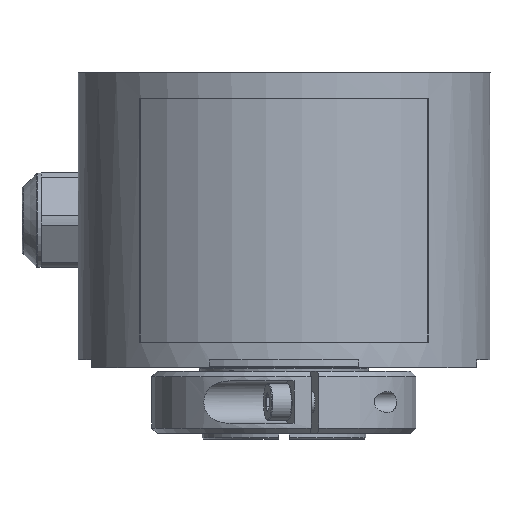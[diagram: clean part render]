
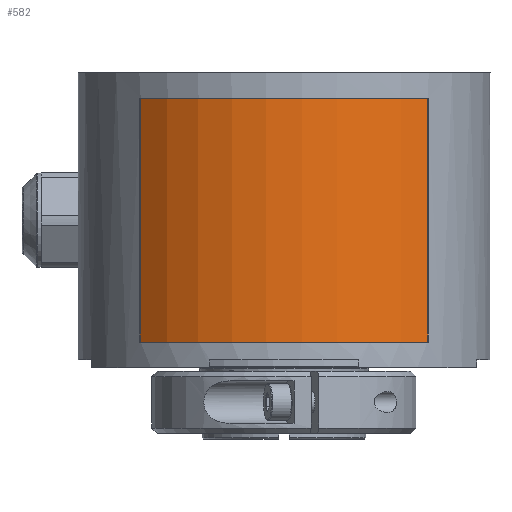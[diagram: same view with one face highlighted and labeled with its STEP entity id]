
A CAD part, front view. The second image highlights one B-rep face of the part: STEP entity #582.
In plain terms, the highlighted cylindrical face has radius 39.2 mm (diameter 78.4 mm), a partial arc.
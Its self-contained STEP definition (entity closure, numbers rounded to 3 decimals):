
#539 = VERTEX_POINT ( 'NONE', #3848 ) ;
#540 = ORIENTED_EDGE ( 'NONE', *, *, #544, .F. ) ;
#543 = EDGE_CURVE ( 'NONE', #585, #569, #3843, .T. ) ;
#544 = EDGE_CURVE ( 'NONE', #569, #567, #3850, .T. ) ;
#556 = EDGE_CURVE ( 'NONE', #539, #567, #3946, .T. ) ;
#558 = EDGE_LOOP ( 'NONE', ( #581, #589, #604, #540 ) ) ;
#567 = VERTEX_POINT ( 'NONE', #3972 ) ;
#569 = VERTEX_POINT ( 'NONE', #3922 ) ;
#575 = EDGE_CURVE ( 'NONE', #585, #539, #3971, .T. ) ;
#581 = ORIENTED_EDGE ( 'NONE', *, *, #543, .F. ) ;
#582 = ADVANCED_FACE ( 'NONE', ( #3927 ), #3745, .T. ) ;
#585 = VERTEX_POINT ( 'NONE', #3052 ) ;
#589 = ORIENTED_EDGE ( 'NONE', *, *, #575, .T. ) ;
#604 = ORIENTED_EDGE ( 'NONE', *, *, #556, .T. ) ;
#3052 = CARTESIAN_POINT ( 'NONE',  ( 26.154, -33.101, 42.312 ) ) ;
#3745 = CYLINDRICAL_SURFACE ( 'NONE', #3794, 39.2 ) ;
#3777 = DIRECTION ( 'NONE',  ( -1., 0., 0. ) ) ;
#3778 = DIRECTION ( 'NONE',  ( 0., 0., -1. ) ) ;
#3779 = CARTESIAN_POINT ( 'NONE',  ( -1.077, -4.903, 29.159 ) ) ;
#3794 = AXIS2_PLACEMENT_3D ( 'NONE', #3779, #3778, #3777 ) ;
#3816 = CARTESIAN_POINT ( 'NONE',  ( -1.077, -4.903, -3.688 ) ) ;
#3829 = DIRECTION ( 'NONE',  ( -1., 0., 0. ) ) ;
#3830 = DIRECTION ( 'NONE',  ( 0., 0., -1. ) ) ;
#3837 = DIRECTION ( 'NONE',  ( 0., 0., -1. ) ) ;
#3838 = VECTOR ( 'NONE', #3837, 1000. ) ;
#3842 = CARTESIAN_POINT ( 'NONE',  ( 26.154, -33.101, 42.312 ) ) ;
#3843 = LINE ( 'NONE', #3842, #3838 ) ;
#3848 = CARTESIAN_POINT ( 'NONE',  ( -28.308, -33.101, 42.312 ) ) ;
#3850 = CIRCLE ( 'NONE', #3859, 39.2 ) ;
#3859 = AXIS2_PLACEMENT_3D ( 'NONE', #3816, #3830, #3829 ) ;
#3922 = CARTESIAN_POINT ( 'NONE',  ( 26.154, -33.101, -3.688 ) ) ;
#3927 = FACE_OUTER_BOUND ( 'NONE', #558, .T. ) ;
#3941 = DIRECTION ( 'NONE',  ( 0., 0., -1. ) ) ;
#3942 = VECTOR ( 'NONE', #3941, 1000. ) ;
#3943 = CARTESIAN_POINT ( 'NONE',  ( -28.308, -33.101, 42.312 ) ) ;
#3946 = LINE ( 'NONE', #3943, #3942 ) ;
#3957 = DIRECTION ( 'NONE',  ( -1., 0., 0. ) ) ;
#3958 = DIRECTION ( 'NONE',  ( 0., 0., -1. ) ) ;
#3959 = CARTESIAN_POINT ( 'NONE',  ( -1.077, -4.903, 42.312 ) ) ;
#3965 = AXIS2_PLACEMENT_3D ( 'NONE', #3959, #3958, #3957 ) ;
#3971 = CIRCLE ( 'NONE', #3965, 39.2 ) ;
#3972 = CARTESIAN_POINT ( 'NONE',  ( -28.308, -33.101, -3.688 ) ) ;
